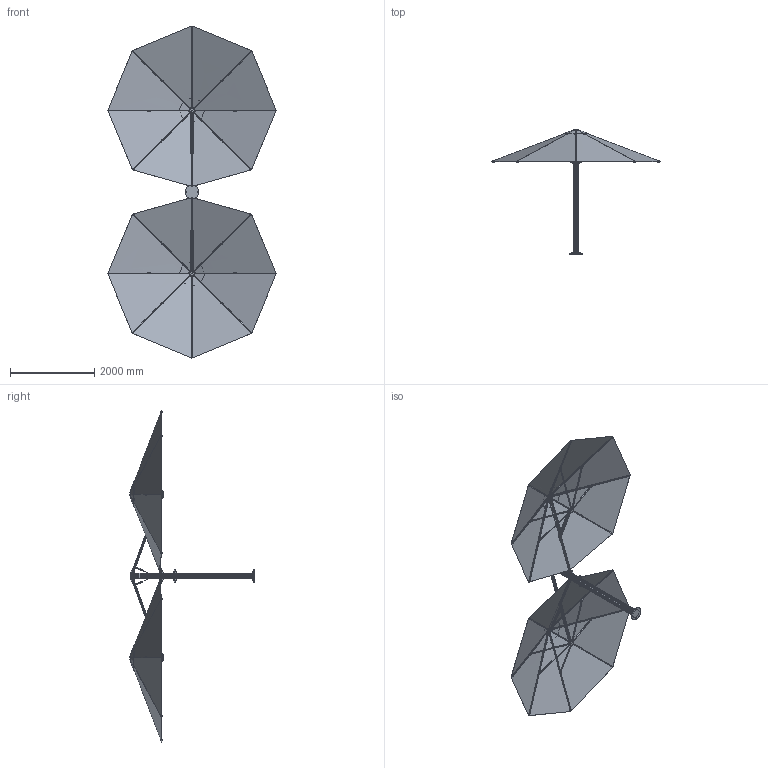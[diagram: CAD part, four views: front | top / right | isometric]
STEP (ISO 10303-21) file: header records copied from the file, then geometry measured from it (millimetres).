
FILE_DESCRIPTION (( 'STEP AP203' ), '1' );
FILE_NAME ('Unity 4M Octagonal Duo.STEP', '2020-06-18T23:38:13', ( '' ), ( '' ), 'SwSTEP 2.0', 'SolidWorks 2017', '' );
FILE_SCHEMA (( 'CONFIG_CONTROL_DESIGN' ));
Length unit declared in the file: millimetre
Products named in the file (47): SMP_UM - 110092; SMP_UM - 010261; SMP_UM - 110069; SMP_UM - 110313_Default<As Machined>; SMP_UM - 110131; SMP_UM - 110123; SMP_UM - 110061; SMP_UM - 110063; SMP_UM - 110087; SMP_UM - 110080; Unity 4M Octagonal Duo; SMP_UM - 110084; SMP_UM - 110066; SMP_UM - 110064; SMP_UM - 110065; SMP_UM - 010005_Canopy only; SMP_UM - 110088; SMP_UM - 110116; SMP_UM - 110094; SMP_UM - 110089; SMP_UM - 110070; SMP_UM - 110222; SMP_UM - 210036; SMP_UM - 110096_PD; SMP_UM - 110110; SMP_UM - 210023; SMP_UM - 110083b; SMP_UM - 210019; SMP_UM - 110079; SMP_UM - 110060; SMP_UM - 110091; SMP_UM - 110085; SMP_UM - 210043 - Gastec Spring_Extended; socket button head cap screw_am_B18.3.4M - 5 x 0.8 x 16 SBHCS --N; socket button head cap screw_am_B18.3.4M - 5 x 0.8 x 20 SBHCS --N; SMP_UM - 110168; SMP_UM - 110112_ALL HOLES; SMP_UM - 110117; SMP_UM - 110059; SMP_UM - 110075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
Assembly tree (67 placements, depth 4):
  Unity 4M Octagonal Duo
    SMP_UM - 110116
      SMP_UM - 110112_ALL HOLES
    SMP_UM - 110123
      SMP_UM - 110313_Default<As Machined>
    SMP_UM - 110222
    SMP_UM - 110126 (2)
    SMP_UM - 110117
    SMP_UM - 110065  x2
      SMP_UM - 110070
      SMP_UM - 110069
    SMP_UM - 010005_Canopy only  x2
      SMP_UM - 110059
        SMP_UM - 110081
        SMP_UM - 110080  x2
      SMP_UM - 110060
        SMP_UM - 110083
        SMP_UM - 110084
        SMP_UM - 210023
        socket button head cap screw_am_B18.3.4M - 5 x 0.8 x 16 SBHCS --N
        SMP_UM - 210036
        SMP_UM - 110085  x2
        SMP_UM - 110083b
      SMP_UM - 110064
        SMP_UM - 110092
      SMP_UM - 110063
        SMP_UM - 110092
        SMP_UM - 110093
        SMP_UM - 110094
        SMP_UM - 110110
      SMP_UM - 110061
        SMP_UM - 110087
        SMP_UM - 110089
        SMP_UM - 210019
        SMP_UM - 110088
        SMP_UM - 110131
        socket button head cap screw_am_B18.3.4M - 5 x 0.8 x 20 SBHCS --N
        SMP_UM - 210036
      SMP_UM - 110062
        SMP_UM - 110091
        SMP_UM - 110089  x2
      SMP_UM - 110066
        SMP_UM - 110098
        SMP_UM - 110075
        SMP_UM - 110096_PD
        SMP_UM - 110102_Stretched
      SMP_UM - 210043 - Gastec Spring_Extended
      SMP_UM - 110168
        SMP_UM - 110075
        SMP_UM - 110079
      SMP_UM - 010261
Bounding box: 3994.32 x 2950.74 x 7871.84 mm (x, y, z)
Volume: 91645691.9 mm3; surface area: 57305292.2 mm2
Topology: 203 solids, 207 shells, 3922 faces, 9522 edges, 6020 vertices
Faces by surface type: plane 1244, cylinder 1238, cone 592, bspline 586, torus 222, sphere 40
Entity records: 69212 total; most frequent: CARTESIAN_POINT 39443, ORIENTED_EDGE 5384, DIRECTION 4655, EDGE_CURVE 2692, AXIS2_PLACEMENT_3D 1841, VERTEX_POINT 1678, EDGE_LOOP 1142, ADVANCED_FACE 1100
